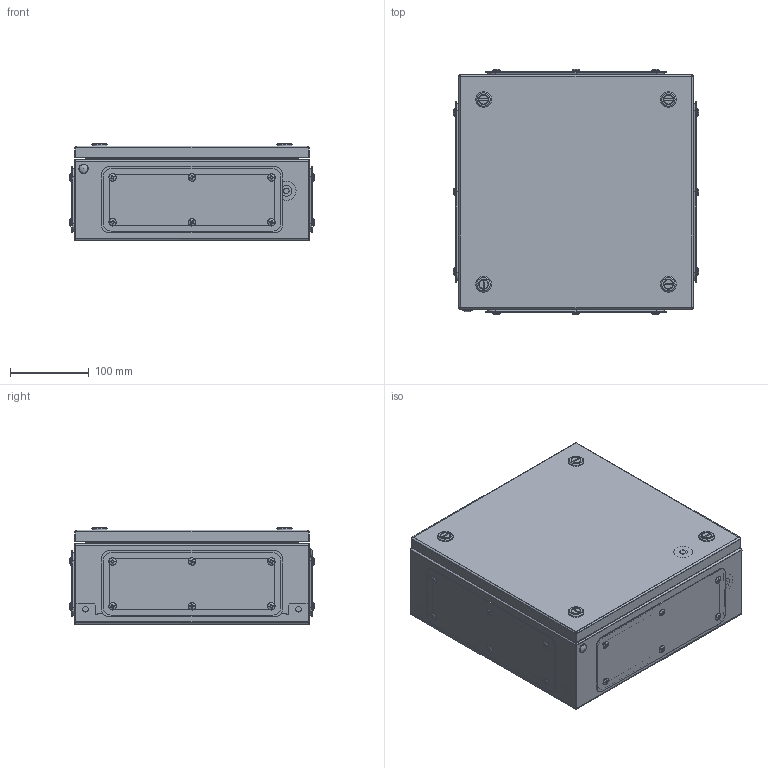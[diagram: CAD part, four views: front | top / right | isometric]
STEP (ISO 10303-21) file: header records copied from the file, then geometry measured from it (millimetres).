
FILE_DESCRIPTION (( 'STEP AP214' ), '1' );
FILE_NAME ('BCS 30.30.12-PKV Êîðîáêà.STEP', '2023-03-14T05:31:48', ( '' ), ( '' ), 'SwSTEP 2.0', 'SolidWorks 2019', '' );
FILE_SCHEMA (( 'AUTOMOTIVE_DESIGN' ));
Length unit declared in the file: millimetre
Products named in the file (1): BCS 30.30.12-PKV Êîðîáêà
Bounding box: 312.04 x 312.04 x 123 mm (x, y, z)
Volume: 718472 mm3; surface area: 1030828.9 mm2
Topology: 64 solids, 64 shells, 3018 faces, 7739 edges, 4924 vertices
Faces by surface type: plane 1693, cylinder 812, cone 218, bspline 118, torus 112, sphere 65
Entity records: 139999 total; most frequent: CARTESIAN_POINT 32585, ORIENTED_EDGE 15440, DIRECTION 15226, EDGE_CURVE 7720, AXIS2_PLACEMENT_3D 5371, VERTEX_POINT 4922, VECTOR 4484, LINE 4484
